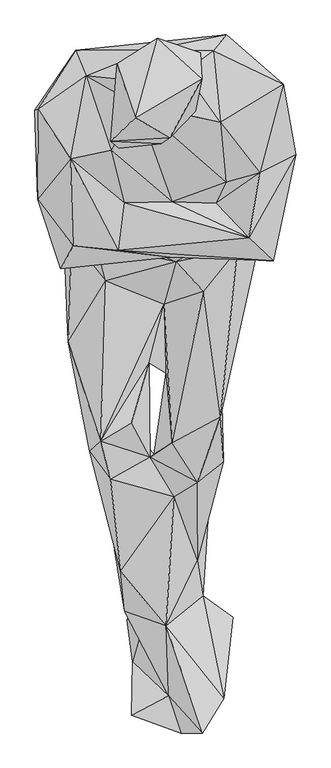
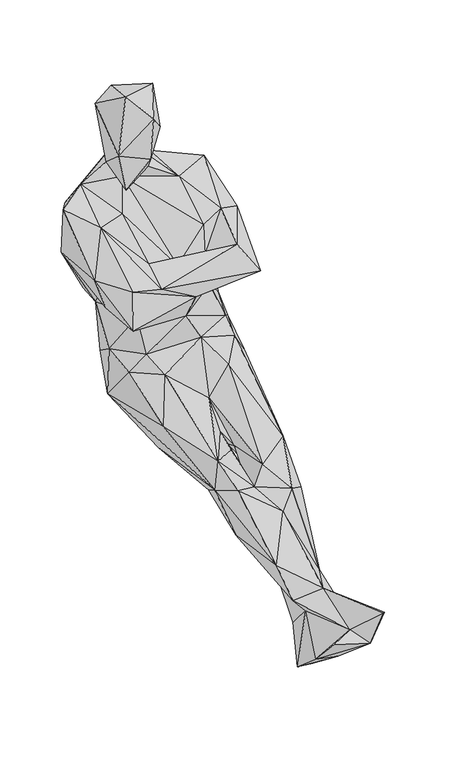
"""IFC4 building model written with IfcOpenShell, lengths in millimetres: geographic element geometry, TempEnscape AssetDefinition - Alex 002 Sitting : TempEnscape AssetDefinition - Alex 002 Sitting."""

from ifc_helpers import new_model, si_unit, origin, place, context, project, spatial, faceted_brep, source, transform, mapped, element, save


def geographic_element_5121f11c(model_context):
    return source(origin(), model_context, "Body", "Brep", [
        faceted_brep([(-61.648, -747.1110225, 96.7559963), (-62.8990009, -844.5109725, 201.4749944), (4.2429999, -809.4609976, 204.2240053), (27.0840004, -876.955986, 194.4839954), (-31.3460007, -642.9949999, 174.7909933), (-71.2610036, -672.0690131, 31.3589983), (9.904, -738.139987, 75.2039999), (-16.5480003, -646.5049982, 5.4199998), (-29.4410009, -577.0320296, 98.0189964), (-75.3739998, -655.6590199, 229.0499955), (-40.9380011, -513.184011, 213.0589932), (20.4869993, -557.577014, 84.5479965), (15.8079993, -410.4120135, 208.8830024), (30.9449993, -675.6970286, 109.9570021), (62.9800037, -712.7460241, 114.8509979), (66.7079985, -627.5460124, 180.5739999), (77.6270032, -463.7680054, 202.778995), (56.3249998, -563.4920001, 224.702999), (-0.264, -682.4190021, 258.3059967), (120.742999, -666.6280031, 148.1830031), (104.836002, -813.9929771, 226.3229936), (65.9200028, -876.9299984, 274.3020058), (-82.6440006, -582.901001, 297.7870107), (-113.3180037, -427.2310138, 309.7279966), (-139.7420019, -365.3300107, 421.9569862), (-100.8199975, -416.7349935, 439.0360117), (14.1310003, -447.7390051, 352.3310125), (-107.9749987, -277.139008, 359.5690131), (-22.3670006, -370.7079887, 324.9129951), (-152.4589956, -98.1739983, 398.3879983), (-29.1729998, -376.3490021, 401.0500014), (-39.3120013, -158.6460024, 425.4109859), (10.4189999, -350.0939906, 443.1959987), (-0.538, -224.0169942, 428.0599952), (39.2449982, -268.6119974, 351.4209986), (-31.2799998, -205.3830028, 471.4320004), (-3.92, -98.9670008, 504.0249825), (-2.5200001, 37.9539989, 427.0150065), (-119.5570007, -347.51001, 495.4119921), (-62.6199991, -313.7179911, 491.6810095), (68.0079982, -75.1129985, 568.9899921), (17.546, -21.4939993, 640.0330067), (-109.8200008, -56.1099984, 587.6079798), (129.3189973, 1.097, 593.0560231), (98.8290012, -303.3770025, 472.2749889), (125.1689941, 40.1670001, 633.3429813), (-127.403006, 8.8160001, 618.7419891), (-17.3129998, -5.8800001, 710.251987), (179.1760027, 121.4789972, 567.381978), (170.9599942, 23.7830002, 521.8960047), (89.5730034, 59.6799999, 731.11099), (177.2429943, 168.0939943, 612.2980118), (157.5369984, 54.7260009, 430.7590127), (109.7270027, 177.7839959, 451.7329931), (133.4750056, 194.9779987, 507.4539781), (103.9199978, -384.7459853, 360.8059883), (100.8730009, -279.4080079, 342.294991), (56.6820018, -421.7199981, 394.0840065), (-178.1229973, -166.7860001, 514.8990154), (-189.5329952, 100.3229991, 460.3019953), (-171.8059927, 19.8810007, 570.3830123), (-184.0990037, 103.5119966, 598.6930132), (-125.0, 59.4939999, 703.0190229), (-165.9380049, 181.347996, 539.345026), (-177.8389961, 182.5409979, 695.1910257), (-191.6449964, -34.3080014, 738.6090159), (-208.2570046, 78.9140016, 750.0650287), (-170.9199995, 143.5869932, 781.8560004), (7.2209998, -13.0960001, 764.8950219), (-233.7689996, 91.9080004, 835.6509805), (-169.2219973, 7.7149998, 828.3270001), (-238.8119996, 253.5110116, 828.9290071), (-232.4000001, 254.7279894, 960.0179791), (-164.8180038, 362.3360097, 894.0709829), (-174.1320044, 253.095001, 695.2040195), (-93.8199982, 349.3500054, 741.3290143), (-173.4320074, 165.5900031, 936.9369745), (-87.5459984, -0.699, 814.9139881), (-76.7619982, 85.3969976, 838.9220238), (-145.5059946, 315.7219887, 971.6309905), (-100.7239968, 180.189997, 945.5369711), (-53.0330017, 263.5749876, 996.8730211), (-74.5680034, 308.2729876, 1021.7729807), (-26.5149996, 363.003999, 1021.8060017), (10.4660001, 87.158002, 800.4519939), (150.0020027, 21.8679998, 858.2940102), (107.9809964, 122.5489974, 873.660028), (90.3780013, 84.8430023, 809.0329766), (194.4160014, -20.0740006, 784.6360207), (235.6619984, 172.2950041, 857.4360013), (169.738993, 140.1630044, 892.3649788), (98.3690023, 231.735006, 962.5660181), (212.6230001, 300.365001, 947.224021), (189.7300035, 67.1430007, 743.1629896), (182.0819974, 293.2940125, 786.2970233), (148.9329934, 150.2459943, 768.7280178), (138.4409964, 246.9870001, 643.6579823), (55.3120002, 292.4279869, 591.6230083), (-28.8600009, 231.8419963, 465.4529989), (-81.5830007, 272.1779943, 567.6460266), (109.5909998, 389.8630142, 863.0790114), (85.6920034, 361.461997, 970.8049893), (33.7250009, 321.7650056, 1017.8380013), (15.8520006, 249.3509948, 1011.9249821), (62.1509999, 357.1909964, 1151.1099339), (53.0319996, 250.9509921, 1121.6210127), (-86.0930011, 184.0440035, 1012.6349926), (-9.749, 192.1959966, 1077.2420168), (-101.3730019, 197.2990036, 1116.0229445), (6.6140001, 203.549996, 1190.2470589), (64.6350011, 310.7079864, 1218.7939882), (-15.5140003, 383.9850128, 1195.2739954), (-56.2620014, 239.3209934, 1262.4280453), (-89.2900005, 337.4809921, 1193.7099695), (-108.6999997, 213.8060033, 495.7950115)], [[[0, 1, 2]], [[0, 3, 1]], [[2, 1, 3]], [[4, 5, 0]], [[6, 0, 5]], [[3, 0, 6]], [[2, 4, 0]], [[7, 6, 5]], [[4, 8, 5]], [[8, 7, 5]], [[9, 4, 2]], [[10, 8, 4]], [[10, 4, 9]], [[11, 7, 8]], [[8, 12, 11]], [[10, 12, 8]], [[7, 13, 6]], [[11, 13, 7]], [[13, 3, 6]], [[13, 14, 3]], [[11, 15, 13]], [[13, 15, 14]], [[16, 15, 11]], [[12, 16, 11]], [[17, 18, 15]], [[15, 19, 14]], [[15, 18, 20]], [[15, 20, 19]], [[16, 17, 15]], [[20, 3, 14]], [[19, 20, 14]], [[18, 21, 20]], [[20, 21, 3]], [[2, 3, 21]], [[21, 18, 2]], [[2, 18, 9]], [[22, 9, 18]], [[23, 9, 22]], [[23, 10, 9]], [[24, 23, 22]], [[25, 24, 22]], [[26, 22, 18]], [[26, 25, 22]], [[24, 27, 23]], [[23, 27, 10]], [[28, 12, 10]], [[28, 10, 27]], [[29, 27, 24]], [[30, 28, 27]], [[31, 30, 27]], [[29, 31, 27]], [[30, 32, 28]], [[32, 33, 28]], [[28, 34, 12]], [[33, 34, 28]], [[31, 33, 35]], [[36, 33, 32]], [[36, 35, 33]], [[31, 37, 33]], [[33, 37, 34]], [[31, 35, 30]], [[29, 37, 31]], [[38, 39, 35]], [[35, 39, 30]], [[36, 38, 35]], [[40, 36, 32]], [[41, 42, 36]], [[36, 42, 38]], [[41, 36, 40]], [[41, 40, 43]], [[43, 40, 44]], [[40, 32, 44]], [[45, 41, 43]], [[41, 46, 42]], [[41, 47, 46]], [[47, 41, 45]], [[48, 43, 49]], [[49, 43, 44]], [[45, 43, 48]], [[45, 50, 47]], [[51, 45, 48]], [[51, 50, 45]], [[48, 49, 52]], [[53, 48, 52]], [[54, 48, 53]], [[54, 51, 48]], [[49, 44, 52]], [[44, 55, 56]], [[52, 44, 56]], [[44, 32, 57]], [[44, 57, 55]], [[34, 56, 12]], [[56, 55, 12]], [[34, 52, 56]], [[12, 55, 16]], [[57, 17, 55]], [[16, 55, 17]], [[57, 30, 26]], [[32, 30, 57]], [[57, 26, 17]], [[17, 26, 18]], [[30, 25, 26]], [[38, 25, 30]], [[39, 38, 30]], [[25, 38, 24]], [[58, 24, 38]], [[42, 58, 38]], [[59, 24, 58]], [[59, 29, 24]], [[60, 58, 42]], [[60, 59, 58]], [[60, 42, 46]], [[61, 59, 60]], [[46, 61, 60]], [[62, 46, 47]], [[62, 61, 46]], [[63, 59, 61]], [[64, 63, 61]], [[62, 64, 61]], [[62, 65, 66]], [[67, 62, 66]], [[65, 62, 47]], [[67, 64, 62]], [[68, 65, 47]], [[68, 47, 50]], [[69, 66, 65]], [[70, 65, 68]], [[70, 69, 65]], [[71, 66, 69]], [[67, 66, 71]], [[64, 67, 71]], [[72, 71, 69]], [[73, 71, 72]], [[74, 64, 71]], [[71, 75, 74]], [[73, 75, 71]], [[72, 69, 76]], [[76, 69, 70]], [[76, 70, 77]], [[77, 70, 68]], [[78, 76, 77]], [[79, 76, 80]], [[80, 76, 78]], [[76, 79, 72]], [[79, 73, 72]], [[79, 81, 82]], [[81, 79, 80]], [[79, 83, 73]], [[82, 83, 79]], [[80, 78, 84]], [[81, 80, 84]], [[78, 77, 85]], [[84, 78, 85]], [[86, 84, 87]], [[81, 84, 86]], [[87, 84, 85]], [[85, 77, 88]], [[89, 90, 85]], [[90, 87, 85]], [[88, 89, 85]], [[90, 86, 87]], [[91, 81, 86]], [[90, 91, 86]], [[92, 91, 90]], [[92, 90, 89]], [[89, 93, 94]], [[93, 89, 88]], [[94, 92, 89]], [[88, 77, 68]], [[88, 68, 93]], [[50, 93, 68]], [[50, 95, 93]], [[95, 94, 93]], [[51, 95, 50]], [[96, 94, 95]], [[96, 95, 51]], [[96, 51, 54]], [[96, 54, 97]], [[97, 94, 96]], [[98, 54, 53]], [[97, 54, 98]], [[99, 97, 98]], [[75, 97, 99]], [[94, 97, 100]], [[75, 100, 97]], [[73, 100, 75]], [[75, 99, 74]], [[83, 100, 73]], [[83, 101, 100]], [[92, 100, 101]], [[94, 100, 92]], [[102, 91, 101]], [[92, 101, 91]], [[102, 101, 83]], [[103, 81, 91]], [[102, 103, 91]], [[83, 104, 102]], [[104, 105, 102]], [[103, 102, 105]], [[103, 106, 81]], [[105, 107, 103]], [[106, 103, 107]], [[82, 81, 106]], [[107, 108, 106]], [[108, 82, 106]], [[107, 109, 108]], [[107, 105, 109]], [[110, 109, 105]], [[104, 110, 105]], [[111, 104, 83]], [[111, 110, 104]], [[110, 111, 112]], [[109, 110, 112]], [[109, 112, 108]], [[108, 113, 82]], [[113, 108, 112]], [[113, 83, 82]], [[113, 111, 83]], [[111, 113, 112]], [[64, 74, 99]], [[99, 63, 64]], [[99, 114, 63]], [[114, 99, 98]], [[114, 59, 63]], [[114, 98, 59]], [[98, 29, 59]], [[53, 52, 98]], [[98, 37, 29]], [[98, 52, 37]], [[37, 52, 34]]]),
    ])


if __name__ == "__main__":
    model = new_model("IFC4")
    model_context = context("Model", 3, world=origin())
    ifc_project = project(units=[si_unit("LENGTHUNIT", "METRE", prefix="MILLI")], contexts=[model_context])
    site = spatial("IfcSite", under=ifc_project)
    building = spatial("IfcBuilding", under=site)
    placement = place(None, origin())
    geographic_element_shape = geographic_element_5121f11c(model_context)
    element("IfcGeographicElement", 1, ObjectType="TempEnscape AssetDefinition - Alex 002 Sitting : TempEnscape AssetDefinition - Alex 002 Sitting", at=placement, inside=building, context=model_context, shape_type="MappedRepresentation", body=[
        mapped(geographic_element_shape, transform((0.0, 0.0, 0.0), x_axis=(1.0, 0.0, 0.0), y_axis=(0.0, 1.0, 0.0), z_axis=(0.0, 0.0, 1.0))),
    ])
    save(model, "model.ifc")
